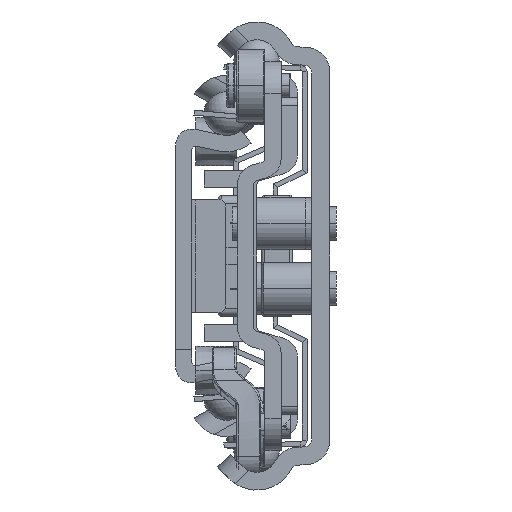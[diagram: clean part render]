
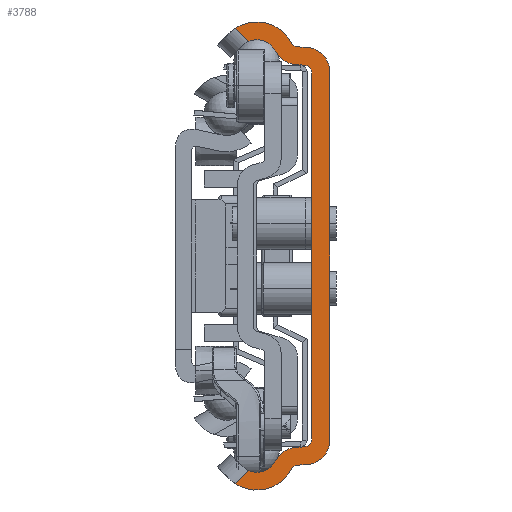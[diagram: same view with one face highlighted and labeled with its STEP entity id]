
A CAD part, left-side view. The second image highlights one B-rep face of the part: STEP entity #3788.
In plain terms, the highlighted planar face has unit normal (-1, 0, 0).
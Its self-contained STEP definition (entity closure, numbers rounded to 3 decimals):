
#1=DIRECTION('',(0.,0.717,-0.697));
#2=VECTOR('',#1,2.305);
#3=CARTESIAN_POINT('',(-250.,9.972,-26.461));
#4=LINE('',#3,#2);
#5=CARTESIAN_POINT('',(-250.,9.,-24.05));
#6=DIRECTION('',(-1.,0.,0.));
#7=DIRECTION('',(0.,0.374,-0.927));
#8=AXIS2_PLACEMENT_3D('',#5,#6,#7);
#10=CARTESIAN_POINT('',(-250.,4.005,-26.582));
#11=DIRECTION('',(-1.,0.,0.));
#12=DIRECTION('',(0.,0.07,0.998));
#13=AXIS2_PLACEMENT_3D('',#10,#11,#12);
#15=DIRECTION('',(0.,-0.998,0.07));
#16=VECTOR('',#15,1.087);
#17=CARTESIAN_POINT('',(-250.,4.214,-23.589));
#18=LINE('',#17,#16);
#19=DIRECTION('',(0.,0.,1.));
#20=VECTOR('',#19,45.032);
#21=CARTESIAN_POINT('',(-250.,2.2,-22.516));
#22=LINE('',#21,#20);
#23=DIRECTION('',(0.,0.998,0.07));
#24=VECTOR('',#23,1.087);
#25=CARTESIAN_POINT('',(-250.,3.13,23.514));
#26=LINE('',#25,#24);
#27=CARTESIAN_POINT('',(-250.,4.005,26.582));
#28=DIRECTION('',(-1.,0.,0.));
#29=DIRECTION('',(0.,0.892,-0.452));
#30=AXIS2_PLACEMENT_3D('',#27,#28,#29);
#32=CARTESIAN_POINT('',(-250.,9.,24.05));
#33=DIRECTION('',(-1.,0.,0.));
#34=DIRECTION('',(0.,-0.892,0.452));
#35=AXIS2_PLACEMENT_3D('',#32,#33,#34);
#37=DIRECTION('',(0.,-0.717,-0.697));
#38=VECTOR('',#37,2.305);
#39=CARTESIAN_POINT('',(-250.,11.624,28.069));
#40=LINE('',#39,#38);
#41=CARTESIAN_POINT('',(-250.,9.,24.05));
#42=DIRECTION('',(1.,0.,0.));
#43=DIRECTION('',(0.,0.547,0.837));
#44=AXIS2_PLACEMENT_3D('',#41,#42,#43);
#46=DIRECTION('',(0.,-0.998,-0.07));
#47=VECTOR('',#46,1.161);
#48=CARTESIAN_POINT('',(-250.,3.949,25.776));
#49=LINE('',#48,#47);
#50=CARTESIAN_POINT('',(-250.,3.,22.702));
#51=DIRECTION('',(-1.,0.,0.));
#52=DIRECTION('',(0.,-1.,0.));
#53=AXIS2_PLACEMENT_3D('',#50,#51,#52);
#55=DIRECTION('',(0.,0.,-1.));
#56=VECTOR('',#55,45.405);
#57=CARTESIAN_POINT('',(-250.,0.,22.702));
#58=LINE('',#57,#56);
#59=CARTESIAN_POINT('',(-250.,3.,-22.702));
#60=DIRECTION('',(-1.,0.,0.));
#61=DIRECTION('',(0.,-0.07,-0.998));
#62=AXIS2_PLACEMENT_3D('',#59,#60,#61);
#64=DIRECTION('',(0.,0.998,-0.07));
#65=VECTOR('',#64,1.161);
#66=CARTESIAN_POINT('',(-250.,2.791,-25.695));
#67=LINE('',#66,#65);
#68=CARTESIAN_POINT('',(-250.,9.,-24.05));
#69=DIRECTION('',(1.,0.,0.));
#70=DIRECTION('',(0.,-0.883,-0.47));
#71=AXIS2_PLACEMENT_3D('',#68,#69,#70);
#79=CARTESIAN_POINT('',(-250.,11.624,-28.069));
#103=CARTESIAN_POINT('',(-250.,9.972,-26.461));
#195=CARTESIAN_POINT('',(-250.,11.624,28.069));
#201=CARTESIAN_POINT('',(-250.,3.879,26.774));
#202=DIRECTION('',(1.,0.,0.));
#203=DIRECTION('',(0.,0.07,-0.998));
#204=AXIS2_PLACEMENT_3D('',#201,#202,#203);
#903=CARTESIAN_POINT('',(-250.,3.879,-26.774));
#904=DIRECTION('',(1.,0.,0.));
#905=DIRECTION('',(0.,0.883,0.47));
#906=AXIS2_PLACEMENT_3D('',#903,#904,#905);
#1674=CARTESIAN_POINT('',(-250.,3.2,-22.516));
#1675=DIRECTION('',(1.,0.,0.));
#1676=DIRECTION('',(0.,-1.,0.));
#1677=AXIS2_PLACEMENT_3D('',#1674,#1675,#1676);
#1692=CARTESIAN_POINT('',(-250.,3.2,22.516));
#1693=DIRECTION('',(1.,0.,0.));
#1694=DIRECTION('',(0.,-0.07,0.998));
#1695=AXIS2_PLACEMENT_3D('',#1692,#1693,#1694);
#1716=CARTESIAN_POINT('',(-250.,9.972,26.461));
#2957=CARTESIAN_POINT('',(-250.,2.2,-22.516));
#2959=VERTEX_POINT('',#2957);
#2961=CARTESIAN_POINT('',(-250.,3.13,-23.514));
#2963=VERTEX_POINT('',#2961);
#2965=CARTESIAN_POINT('',(-250.,3.13,23.514));
#2967=VERTEX_POINT('',#2965);
#2969=CARTESIAN_POINT('',(-250.,2.2,22.516));
#2971=VERTEX_POINT('',#2969);
#2973=CARTESIAN_POINT('',(-250.,3.949,25.776));
#2975=VERTEX_POINT('',#2973);
#2977=CARTESIAN_POINT('',(-250.,4.762,26.304));
#2979=VERTEX_POINT('',#2977);
#2981=CARTESIAN_POINT('',(-250.,4.762,-26.304));
#2983=VERTEX_POINT('',#2981);
#2985=CARTESIAN_POINT('',(-250.,3.949,-25.776));
#2987=VERTEX_POINT('',#2985);
#2989=CARTESIAN_POINT('',(-250.,4.214,-23.589));
#2990=CARTESIAN_POINT('',(-250.,6.681,-25.226));
#2991=VERTEX_POINT('',#2989);
#2992=VERTEX_POINT('',#2990);
#2997=CARTESIAN_POINT('',(-250.,6.681,25.226));
#2998=CARTESIAN_POINT('',(-250.,4.214,23.589));
#2999=VERTEX_POINT('',#2997);
#3000=VERTEX_POINT('',#2998);
#3005=CARTESIAN_POINT('',(-250.,0.,22.702));
#3006=CARTESIAN_POINT('',(-250.,2.791,25.695));
#3007=VERTEX_POINT('',#3005);
#3008=VERTEX_POINT('',#3006);
#3013=CARTESIAN_POINT('',(-250.,2.791,-25.695));
#3014=CARTESIAN_POINT('',(-250.,0.,-22.702));
#3015=VERTEX_POINT('',#3013);
#3016=VERTEX_POINT('',#3014);
#3363=VERTEX_POINT('',#79);
#3371=VERTEX_POINT('',#103);
#3372=VERTEX_POINT('',#1716);
#3380=VERTEX_POINT('',#195);
#3741=CARTESIAN_POINT('',(-250.,0.,0.));
#3742=DIRECTION('',(1.,0.,0.));
#3743=DIRECTION('',(0.,-1.,0.));
#3744=AXIS2_PLACEMENT_3D('',#3741,#3742,#3743);
#3745=PLANE('',#3744);
#3747=ORIENTED_EDGE('',*,*,#3746,.F.);
#3749=ORIENTED_EDGE('',*,*,#3748,.T.);
#3751=ORIENTED_EDGE('',*,*,#3750,.F.);
#3753=ORIENTED_EDGE('',*,*,#3752,.T.);
#3755=ORIENTED_EDGE('',*,*,#3754,.F.);
#3757=ORIENTED_EDGE('',*,*,#3756,.T.);
#3759=ORIENTED_EDGE('',*,*,#3758,.F.);
#3761=ORIENTED_EDGE('',*,*,#3760,.T.);
#3763=ORIENTED_EDGE('',*,*,#3762,.F.);
#3765=ORIENTED_EDGE('',*,*,#3764,.T.);
#3767=ORIENTED_EDGE('',*,*,#3766,.F.);
#3769=ORIENTED_EDGE('',*,*,#3768,.T.);
#3771=ORIENTED_EDGE('',*,*,#3770,.F.);
#3773=ORIENTED_EDGE('',*,*,#3772,.T.);
#3775=ORIENTED_EDGE('',*,*,#3774,.F.);
#3777=ORIENTED_EDGE('',*,*,#3776,.T.);
#3779=ORIENTED_EDGE('',*,*,#3778,.F.);
#3781=ORIENTED_EDGE('',*,*,#3780,.T.);
#3783=ORIENTED_EDGE('',*,*,#3782,.F.);
#3785=ORIENTED_EDGE('',*,*,#3784,.T.);
#3786=EDGE_LOOP('',(#3747,#3749,#3751,#3753,#3755,#3757,#3759,#3761,#3763,#3765,
#3767,#3769,#3771,#3773,#3775,#3777,#3779,#3781,#3783,#3785));
#3787=FACE_OUTER_BOUND('',#3786,.F.);
#3788=ADVANCED_FACE('',(#3787),#3745,.F.);
#9=CIRCLE('',#8,2.6);
#14=CIRCLE('',#13,3.);
#31=CIRCLE('',#30,3.);
#36=CIRCLE('',#35,2.6);
#45=CIRCLE('',#44,4.8);
#54=CIRCLE('',#53,3.);
#63=CIRCLE('',#62,3.);
#72=CIRCLE('',#71,4.8);
#205=CIRCLE('',#204,1.);
#907=CIRCLE('',#906,1.);
#1678=CIRCLE('',#1677,1.);
#1696=CIRCLE('',#1695,1.);
#3746=EDGE_CURVE('',#3371,#3363,#4,.T.);
#3748=EDGE_CURVE('',#3371,#2992,#9,.T.);
#3750=EDGE_CURVE('',#2991,#2992,#14,.T.);
#3752=EDGE_CURVE('',#2991,#2963,#18,.T.);
#3754=EDGE_CURVE('',#2959,#2963,#1678,.T.);
#3756=EDGE_CURVE('',#2959,#2971,#22,.T.);
#3758=EDGE_CURVE('',#2967,#2971,#1696,.T.);
#3760=EDGE_CURVE('',#2967,#3000,#26,.T.);
#3762=EDGE_CURVE('',#2999,#3000,#31,.T.);
#3764=EDGE_CURVE('',#2999,#3372,#36,.T.);
#3766=EDGE_CURVE('',#3380,#3372,#40,.T.);
#3768=EDGE_CURVE('',#3380,#2979,#45,.T.);
#3770=EDGE_CURVE('',#2975,#2979,#205,.T.);
#3772=EDGE_CURVE('',#2975,#3008,#49,.T.);
#3774=EDGE_CURVE('',#3007,#3008,#54,.T.);
#3776=EDGE_CURVE('',#3007,#3016,#58,.T.);
#3778=EDGE_CURVE('',#3015,#3016,#63,.T.);
#3780=EDGE_CURVE('',#3015,#2987,#67,.T.);
#3782=EDGE_CURVE('',#2983,#2987,#907,.T.);
#3784=EDGE_CURVE('',#2983,#3363,#72,.T.);
